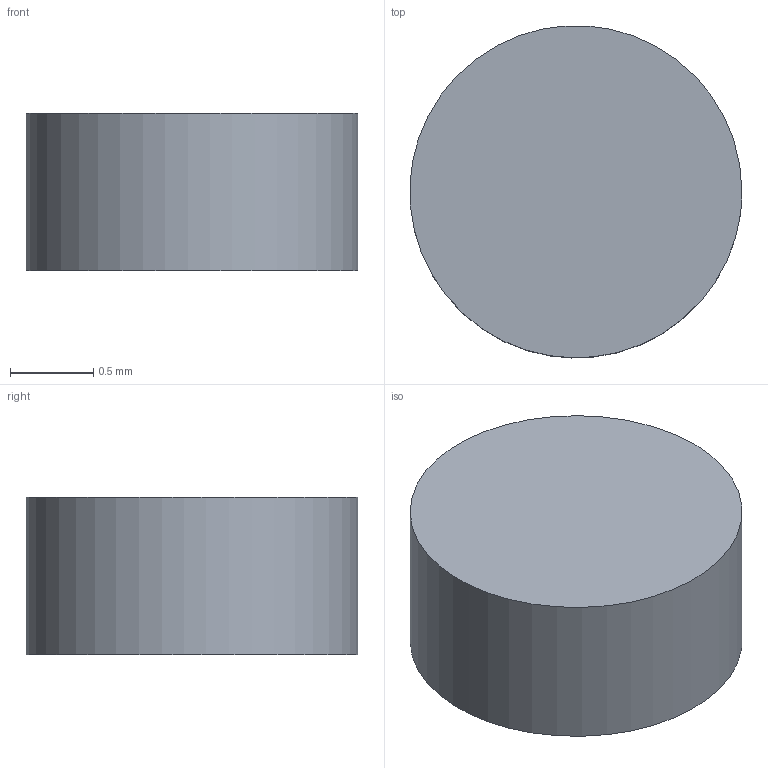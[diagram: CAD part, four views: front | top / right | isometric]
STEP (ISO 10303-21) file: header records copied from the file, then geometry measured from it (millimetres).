
FILE_DESCRIPTION ((), '1');
FILE_NAME ('C:\Users\r.sato\Desktop\', '2016-12-19T17:25:31', ('Unknown'), ('Unknown'), 'HarmonyWare STEP v1.9.13', 'HarmonyWare Translators', '');
FILE_SCHEMA (('CONFIG_CONTROL_DESIGN'));
Length unit declared in the file: millimetre
Products named in the file (1): NONE
Bounding box: 2 x 2 x 0.95 mm (x, y, z)
Volume: 2.7 mm3; surface area: 12.3 mm2
Topology: 1 solids, 1 shells, 3 faces, 3 edges, 2 vertices
Faces by surface type: sphere 1, plane 1, cylinder 1
Full cylindrical faces by diameter (mm): 2 x1
Entity records: 151 total; most frequent: CARTESIAN_POINT 25, PERSON 8, ORGANIZATION 8, PERSON_AND_ORGANIZATION 8, ORIENTED_EDGE 6, DIRECTION 6, PERSON_AND_ORGANIZATION_ROLE 5, CC_DESIGN_PERSON_AND_ORGANIZATION_ASSIGNMENT 5
